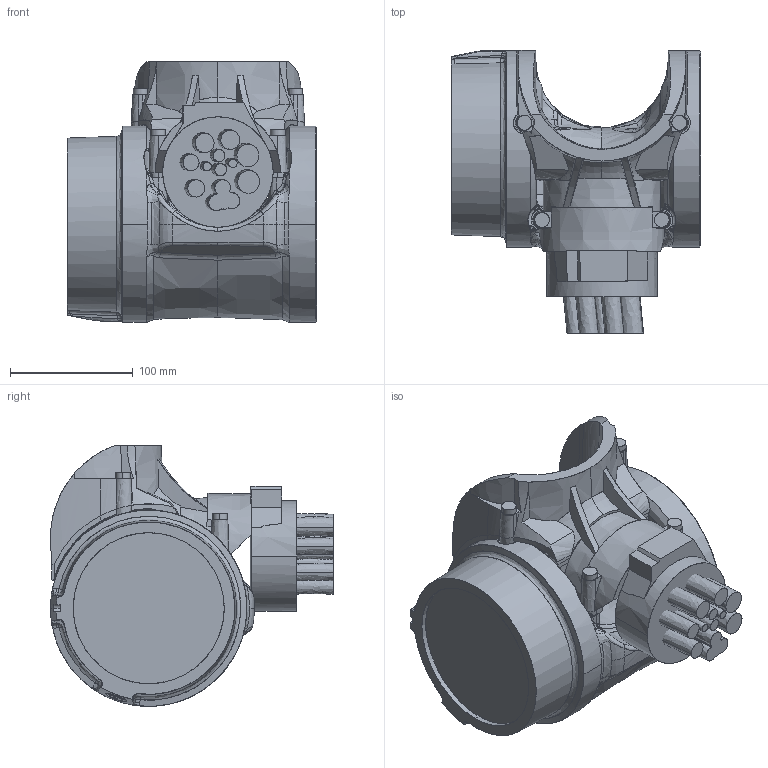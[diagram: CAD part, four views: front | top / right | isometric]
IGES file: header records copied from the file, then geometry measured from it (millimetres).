
Start section: SolidWorks IGES file using analytic representation for surfaces
Global section: file name: C:\Users\SEALDUN\OneDrive - ABB\Documents\R&D Robotics\Work Items\WI 632927 light weight hole removal\IGES\IRB5720-LID-MH_90kg-300_OC_03_IGES_J\IRB5720-LID_90kg-300_OmniCore_rev00_LINK06_CABLE.igs; native system: SolidWorks 2024; preprocessor: SolidWorks 2024; author: SEALDUN; date: 250708.123132; units: millimetre
Bounding box: 203.4 x 230.5 x 212.5 mm (x, y, z)
Surface area: 291276.4 mm2 (no closed solid volume)
Topology: 0 solids, 0 shells, 679 faces, 10805 edges, 10783 vertices
Faces by surface type: bspline 490, revolution 189
